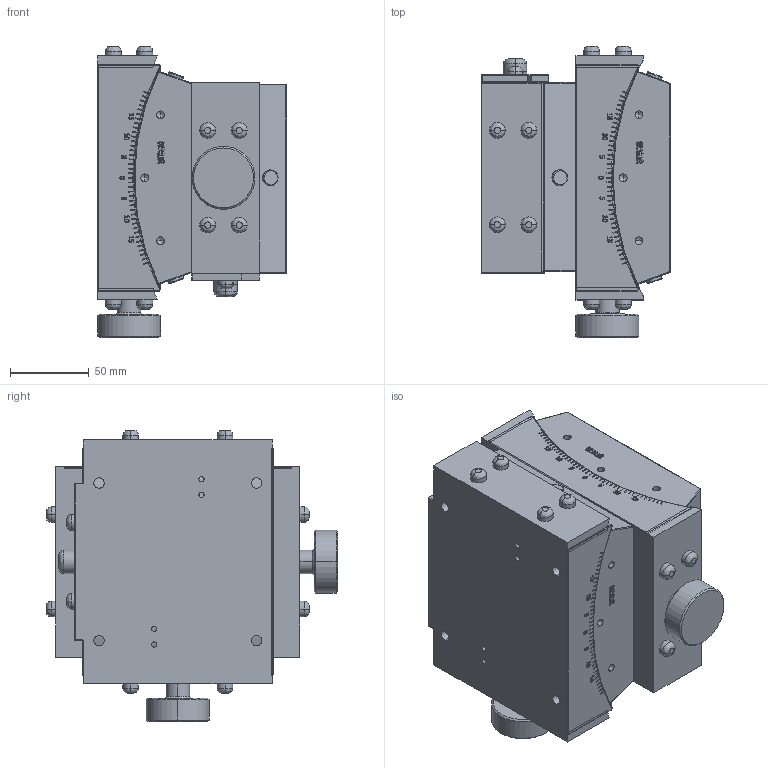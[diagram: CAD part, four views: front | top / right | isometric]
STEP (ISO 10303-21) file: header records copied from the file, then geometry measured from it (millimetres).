
FILE_DESCRIPTION (( 'STEP AP203' ), '1' );
FILE_NAME ('PT-SD311+PT-SD312郪磁怢.STEP', '2025-03-25T08:50:05', ( '' ), ( '' ), 'SwSTEP 2.0', 'SolidWorks 2023', '' );
FILE_SCHEMA (( 'CONFIG_CONTROL_DESIGN' ));
Length unit declared in the file: millimetre
Products named in the file (13): PT-SD312-上座; PT-SD312-上座_4; PT-SD312; PT-SD312-上座_2; PT-SD312-下座; PT-SD311; PT-SD312-上座_3; PT-SD311+PT-SD312组合台
Assembly tree (12 placements, depth 4):
  PT-SD311+PT-SD312组合台
    PT-SD311
      PT-SD312-下座
      PT-SD312-上座
        PT-SD312-上座_4
        PT-SD312-上座_3
        PT-SD312-上座_2
        PT-SD312-上座
    PT-SD312
      PT-SD312-下座
      PT-SD312-上座
        PT-SD312-上座
        PT-SD312-上座_2
Bounding box: 120 x 185 x 185 mm (x, y, z)
Volume: 2116617.4 mm3; surface area: 319960.9 mm2
Topology: 8 solids, 8 shells, 1802 faces, 4802 edges, 3104 vertices
Faces by surface type: plane 822, bspline 390, cylinder 368, cone 164, sphere 42, torus 16
Entity records: 71080 total; most frequent: CARTESIAN_POINT 27146, ORIENTED_EDGE 9568, DIRECTION 7574, EDGE_CURVE 4784, VERTEX_POINT 3104, VECTOR 2608, LINE 2608, AXIS2_PLACEMENT_3D 2483
